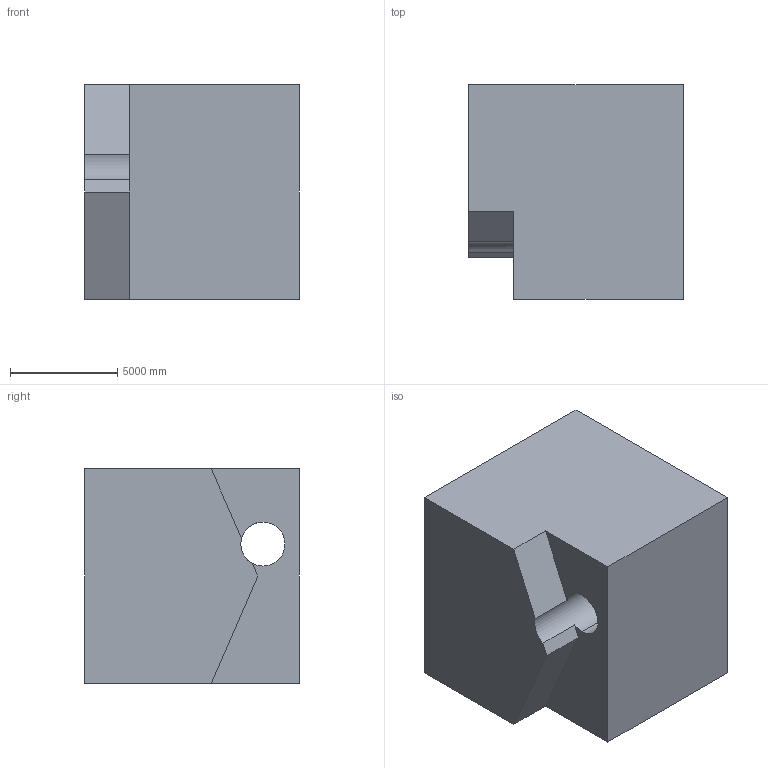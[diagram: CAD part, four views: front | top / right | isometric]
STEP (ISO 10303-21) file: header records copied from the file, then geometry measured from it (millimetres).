
FILE_DESCRIPTION (( 'STEP AP203' ), '1' );
FILE_NAME ('1107.STEP', '2022-08-18T12:47:21', ( 'user' ), ( '' ), 'SwSTEP 2.0', 'SolidWorks 2021', '' );
FILE_SCHEMA (( 'CONFIG_CONTROL_DESIGN' ));
Length unit declared in the file: centimetre
Products named in the file (1): 1107
Bounding box: 10000 x 10000 x 10000 mm (x, y, z)
Volume: 909995755736.5 mm3; surface area: 629196507.6 mm2
Topology: 1 solids, 1 shells, 12 faces, 33 edges, 22 vertices
Faces by surface type: plane 10, cylinder 2
Entity records: 464 total; most frequent: CARTESIAN_POINT 68, ORIENTED_EDGE 66, DIRECTION 65, EDGE_CURVE 33, LINE 27, VECTOR 27, VERTEX_POINT 22, AXIS2_PLACEMENT_3D 19
